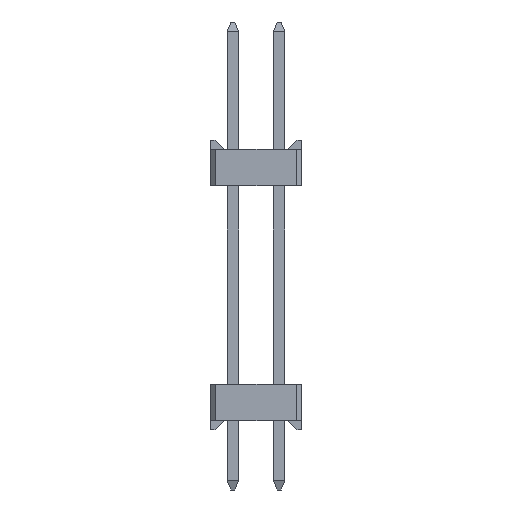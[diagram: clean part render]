
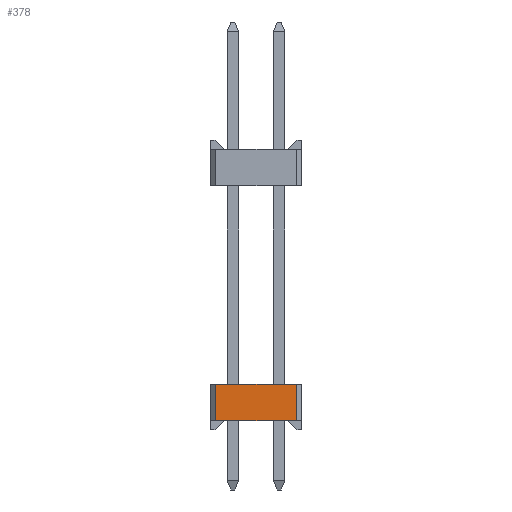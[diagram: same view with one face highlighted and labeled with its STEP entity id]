
A CAD part, left-side view. The second image highlights one B-rep face of the part: STEP entity #378.
In plain terms, the highlighted planar face has unit normal (-1, 0, 0).
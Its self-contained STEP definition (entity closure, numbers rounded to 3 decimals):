
#378=ADVANCED_FACE('',(#4658),#2518,.T.);
#2518=PLANE('',#40883);
#4658=FACE_OUTER_BOUND('',#6966,.T.);
#6966=EDGE_LOOP('',(#11738,#11739,#11740,#11741));
#11738=ORIENTED_EDGE('',*,*,#26296,.T.);
#11739=ORIENTED_EDGE('',*,*,#26297,.F.);
#11740=ORIENTED_EDGE('',*,*,#26298,.F.);
#11741=ORIENTED_EDGE('',*,*,#25234,.T.);
#21545=VERTEX_POINT('',#55513);
#21546=VERTEX_POINT('',#55515);
#22418=VERTEX_POINT('',#57465);
#22419=VERTEX_POINT('',#57467);
#25234=EDGE_CURVE('',#21546,#21545,#30858,.T.);
#26296=EDGE_CURVE('',#21545,#22418,#31920,.T.);
#26297=EDGE_CURVE('',#22419,#22418,#31921,.T.);
#26298=EDGE_CURVE('',#21546,#22419,#31922,.T.);
#30858=LINE('',#55514,#36482);
#31920=LINE('',#57464,#37544);
#31921=LINE('',#57466,#37545);
#31922=LINE('',#57468,#37546);
#36482=VECTOR('',#44457,1.);
#37544=VECTOR('',#45551,1.);
#37545=VECTOR('',#45552,1.);
#37546=VECTOR('',#45553,1.);
#40883=AXIS2_PLACEMENT_3D('',#57469,#45554,#45555);
#44457=DIRECTION('',(0.,-1.,0.));
#45551=DIRECTION('',(0.,0.,1.));
#45552=DIRECTION('',(0.,-1.,0.));
#45553=DIRECTION('',(0.,0.,1.));
#45554=DIRECTION('',(-1.,0.,0.));
#45555=DIRECTION('',(0.,0.,1.));
#55513=CARTESIAN_POINT('',(0.,0.3,-12.9));
#55514=CARTESIAN_POINT('',(0.,5.,-12.9));
#55515=CARTESIAN_POINT('',(0.,4.7,-12.9));
#57464=CARTESIAN_POINT('',(0.,0.3,-98.));
#57465=CARTESIAN_POINT('',(0.,0.3,-10.9));
#57466=CARTESIAN_POINT('',(0.,5.,-10.9));
#57467=CARTESIAN_POINT('',(0.,4.7,-10.9));
#57468=CARTESIAN_POINT('',(0.,4.7,-98.));
#57469=CARTESIAN_POINT('',(0.,5.,-10.9));
